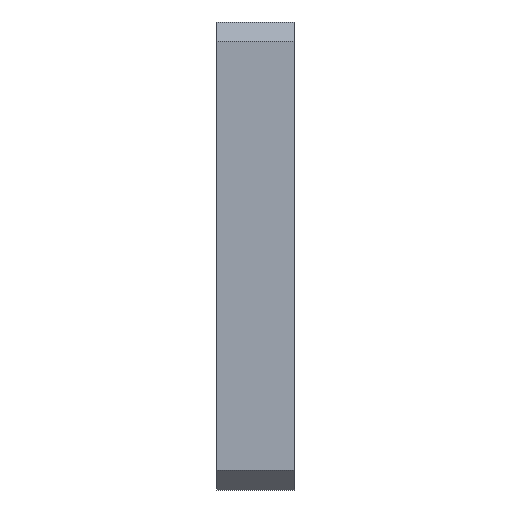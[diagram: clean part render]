
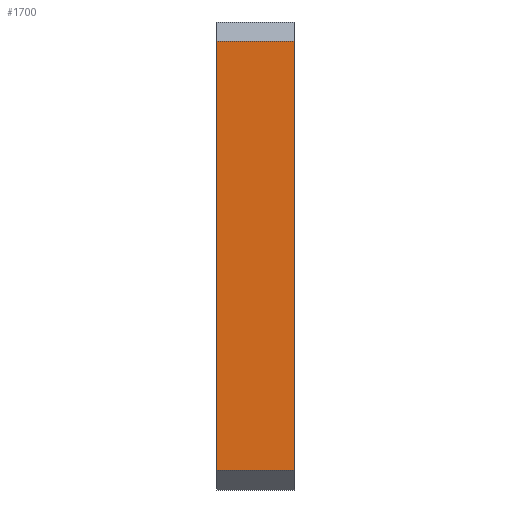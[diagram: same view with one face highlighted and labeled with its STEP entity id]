
A CAD part, left-side view. The second image highlights one B-rep face of the part: STEP entity #1700.
In plain terms, the highlighted planar face has unit normal (-1, 0, 0).
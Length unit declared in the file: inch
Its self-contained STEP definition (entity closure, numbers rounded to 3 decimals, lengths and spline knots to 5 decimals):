
#85=PLANE('',#1867);
#168=FACE_OUTER_BOUND('',#275,.T.);
#275=EDGE_LOOP('',(#1576,#1577,#1578,#1579));
#281=LINE('',#2365,#454);
#293=LINE('',#2391,#466);
#336=LINE('',#2544,#509);
#379=LINE('',#2696,#552);
#454=VECTOR('',#1883,0.3937);
#466=VECTOR('',#1899,0.3937);
#509=VECTOR('',#2018,0.3937);
#552=VECTOR('',#2135,0.3937);
#695=VERTEX_POINT('',#2358);
#698=VERTEX_POINT('',#2363);
#710=VERTEX_POINT('',#2389);
#782=VERTEX_POINT('',#2543);
#861=EDGE_CURVE('',#698,#695,#281,.T.);
#874=EDGE_CURVE('',#710,#698,#293,.T.);
#950=EDGE_CURVE('',#695,#782,#336,.T.);
#1027=EDGE_CURVE('',#782,#710,#379,.T.);
#1576=ORIENTED_EDGE('',*,*,#861,.F.);
#1577=ORIENTED_EDGE('',*,*,#874,.F.);
#1578=ORIENTED_EDGE('',*,*,#1027,.F.);
#1579=ORIENTED_EDGE('',*,*,#950,.F.);
#1700=ADVANCED_FACE('',(#168),#85,.T.);
#1867=AXIS2_PLACEMENT_3D('',#2837,#2346,#2347);
#1883=DIRECTION('',(0.,1.,0.));
#1899=DIRECTION('',(0.,0.,-1.));
#2018=DIRECTION('',(0.,0.,1.));
#2135=DIRECTION('',(0.,-1.,0.));
#2346=DIRECTION('center_axis',(-1.,0.,0.));
#2347=DIRECTION('ref_axis',(0.,0.,1.));
#2358=CARTESIAN_POINT('',(-3.,0.5,-2.75));
#2363=CARTESIAN_POINT('',(-3.,-0.5,-2.75));
#2365=CARTESIAN_POINT('',(-3.,0.,-2.75));
#2389=CARTESIAN_POINT('',(-3.,-0.5,2.75));
#2391=CARTESIAN_POINT('',(-3.,-0.5,3.));
#2543=CARTESIAN_POINT('',(-3.,0.5,2.75));
#2544=CARTESIAN_POINT('',(-3.,0.5,3.));
#2696=CARTESIAN_POINT('',(-3.,0.,2.75));
#2837=CARTESIAN_POINT('Origin',(-3.,0.,-3.));
